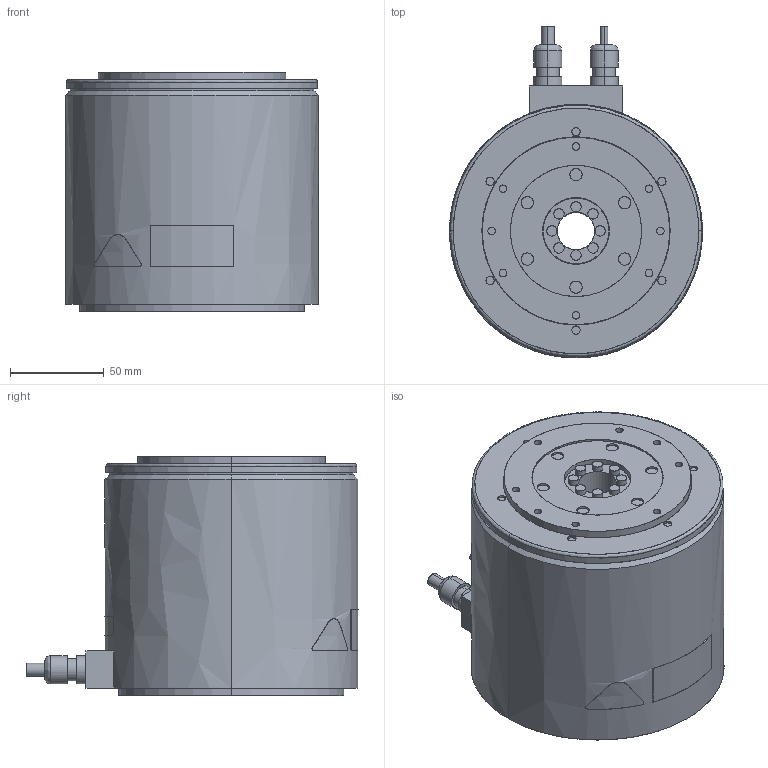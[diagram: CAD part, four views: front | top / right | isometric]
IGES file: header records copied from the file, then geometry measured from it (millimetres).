
Start section: SolidWorks IGES file using analytic representation for surfaces
Bounding box: 135 x 177.1 x 128 mm (x, y, z)
Surface area: 98237.4 mm2 (no closed solid volume)
Topology: 0 solids, 0 shells, 228 faces, 5485 edges, 5485 vertices
Faces by surface type: revolution 138, bspline 90
